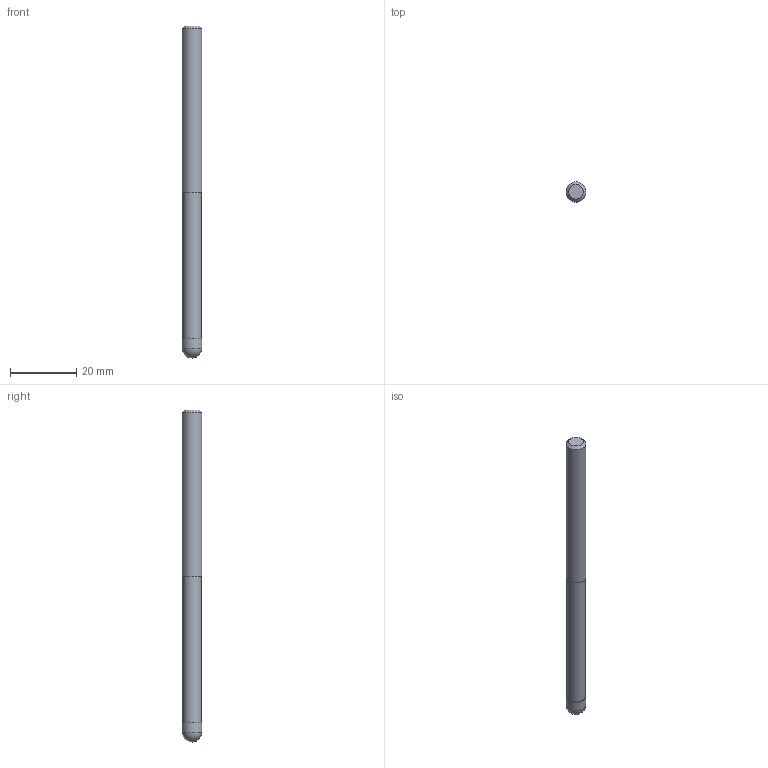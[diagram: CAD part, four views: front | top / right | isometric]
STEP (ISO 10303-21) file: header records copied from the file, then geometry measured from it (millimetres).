
FILE_DESCRIPTION((''),'2;1');
FILE_NAME('C:\Users\nsx150\AppData\Local\Temp\Mastercam 2021\F27638BAQE\TEMP.step','2021-06-25T11:40:23',(''),(''),'STEP Write','Mastercam 2021 ... CNC Software, Inc.','');
FILE_SCHEMA(('AUTOMOTIVE_DESIGN'));
Length unit declared in the file: millimetre
Products named in the file (1): None
Bounding box: 6 x 6 x 100 mm (x, y, z)
Volume: 2672.4 mm3; surface area: 1918.6 mm2
Topology: 2 solids, 2 shells, 9 faces, 13 edges, 8 vertices
Faces by surface type: plane 4, cylinder 3, sphere 1, cone 1
Full cylindrical faces by diameter (mm): 5.7 x1, 6 x2
Entity records: 211 total; most frequent: DIRECTION 36, CARTESIAN_POINT 25, AXIS2_PLACEMENT_3D 18, ORIENTED_EDGE 14, EDGE_LOOP 14, STYLED_ITEM 12, ADVANCED_FACE 9, FACE_BOUND 8
